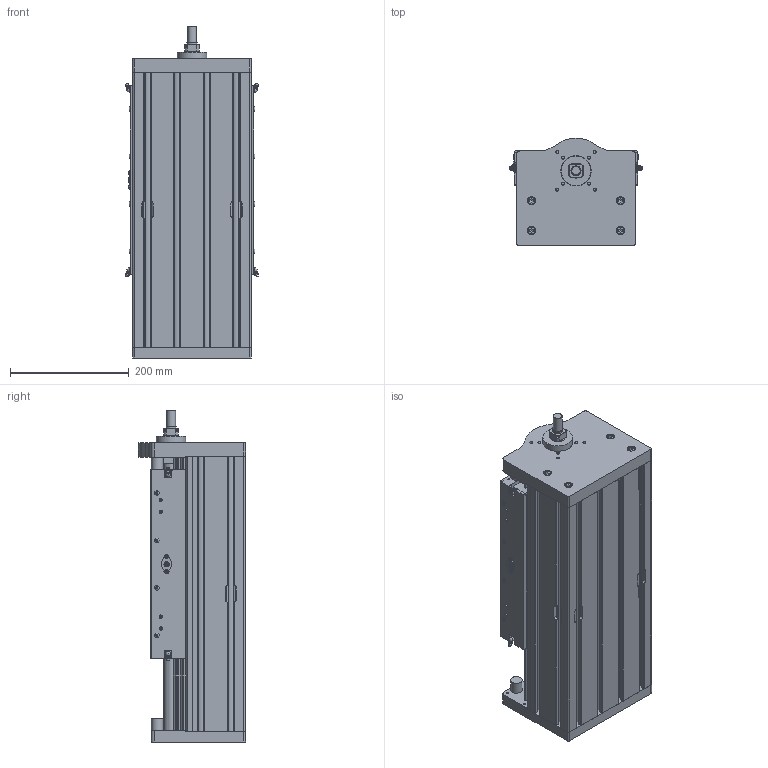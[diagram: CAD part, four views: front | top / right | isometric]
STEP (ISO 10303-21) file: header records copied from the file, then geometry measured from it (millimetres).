
FILE_DESCRIPTION(/* description */ ('Asse VU-K200LE-25H-25-N'),/* implementation_level */ '2;1');
FILE_NAME(/* name */ 'VU-K200LE-25H-25-N-CLIENTE.stp',/* time_stamp */ '2025-02-06T09:33:10+01:00',/* author */ ('davide.cavedon'),/* organization */ (''),/* preprocessor_version */ 'ST-DEVELOPER v20',/* originating_system */ 'Autodesk Inventor 2024',/* authorisation */ '');
FILE_SCHEMA (('CONFIG_CONTROL_DESIGN'));
Products named in the file (5): VU-K200LE-25H-25-N-CLIENTE; C_VU-K200LE-25H-25-N-CLIENTE-001; C_VU-K200SE-25H-25-N-CLIENTE-004; C_VU-K200SE-25H-25-N-CLIENTE-003; C_VU-K200LE-25H-25-N-CLIENTE-002
Assembly tree (4 placements, depth 2):
  VU-K200LE-25H-25-N-CLIENTE
    C_VU-K200LE-25H-25-N-CLIENTE-001
    C_VU-K200SE-25H-25-N-CLIENTE-004
    C_VU-K200SE-25H-25-N-CLIENTE-003
    C_VU-K200LE-25H-25-N-CLIENTE-002
Bounding box: 224.02 x 180.5 x 560 mm (x, y, z)
Volume: 12455195.9 mm3; surface area: 1123502.6 mm2
Topology: 10 solids, 99 shells, 2744 faces, 7106 edges, 4652 vertices
Faces by surface type: plane 1607, cylinder 676, cone 247, torus 104, bspline 104, sphere 6
Full cylindrical faces by diameter (mm): 0.5 x4, 1 x8, 2 x5, 2.459 x2, 2.5 x2, 3 x10, 3.242 x32, 3.5 x2, 4 x8, 4.134 x8, 4.25 x2, 4.3 x2, 4.5 x11, 4.917 x24, 4.95 x2, 5 x14, 5.15 x2, 5.5 x8, 5.7 x2, 5.85 x2, 6 x40, 6.6 x24, 6.647 x28, 6.9 x4, 7 x6, 7.3 x8, 7.6 x10, 7.847 x4, 8 x10, 8.15 x2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
Entity records: 96507 total; most frequent: CARTESIAN_POINT 27593, ORIENTED_EDGE 13892, DIRECTION 13674, EDGE_CURVE 7004, AXIS2_PLACEMENT_3D 4685, VERTEX_POINT 4652, LINE 4304, VECTOR 4304
